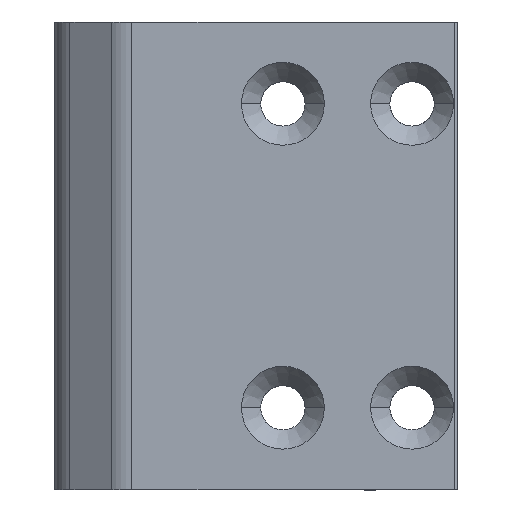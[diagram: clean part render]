
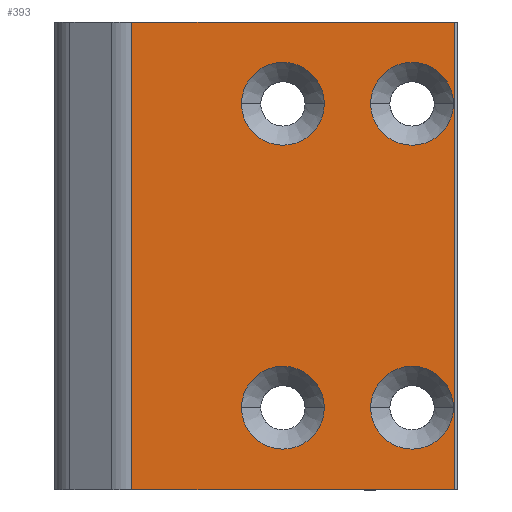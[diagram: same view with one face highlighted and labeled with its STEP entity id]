
A CAD part, top view. The second image highlights one B-rep face of the part: STEP entity #393.
In plain terms, the highlighted planar face has unit normal (0, 0, 1).
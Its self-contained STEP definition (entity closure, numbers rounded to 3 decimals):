
#2 = ORIENTED_EDGE ( 'NONE', *, *, #1031, .F. ) ;
#20 = ORIENTED_EDGE ( 'NONE', *, *, #832, .F. ) ;
#57 = CARTESIAN_POINT ( 'NONE',  ( 5.792, 0., 26. ) ) ;
#85 = VECTOR ( 'NONE', #935, 1000. ) ;
#111 = DIRECTION ( 'NONE',  ( 0., 0., 1. ) ) ;
#138 = VERTEX_POINT ( 'NONE', #1418 ) ;
#178 = EDGE_CURVE ( 'NONE', #1087, #396, #892, .T. ) ;
#182 = CIRCLE ( 'NONE', #1581, 3.543 ) ;
#207 = CARTESIAN_POINT ( 'NONE',  ( -21.832, 40., 26. ) ) ;
#224 = AXIS2_PLACEMENT_3D ( 'NONE', #258, #2208, #1309 ) ;
#258 = CARTESIAN_POINT ( 'NONE',  ( -8.908, 33., 26. ) ) ;
#276 = ORIENTED_EDGE ( 'NONE', *, *, #675, .F. ) ;
#290 = EDGE_CURVE ( 'NONE', #1087, #1695, #1474, .T. ) ;
#292 = CARTESIAN_POINT ( 'NONE',  ( 0., 40., 26. ) ) ;
#311 = CIRCLE ( 'NONE', #419, 3.543 ) ;
#372 = CIRCLE ( 'NONE', #906, 3.543 ) ;
#384 = CARTESIAN_POINT ( 'NONE',  ( -8.908, 33., 26. ) ) ;
#393 = ADVANCED_FACE ( 'NONE', ( #2067, #1013, #1696, #482, #1900 ), #1718, .F. ) ;
#396 = VERTEX_POINT ( 'NONE', #444 ) ;
#414 = EDGE_LOOP ( 'NONE', ( #2249, #1151 ) ) ;
#419 = AXIS2_PLACEMENT_3D ( 'NONE', #2136, #1061, #2330 ) ;
#444 = CARTESIAN_POINT ( 'NONE',  ( -21.832, 0., 26. ) ) ;
#468 = EDGE_CURVE ( 'NONE', #2173, #2309, #1423, .T. ) ;
#473 = VERTEX_POINT ( 'NONE', #1380 ) ;
#482 = FACE_BOUND ( 'NONE', #414, .T. ) ;
#497 = CARTESIAN_POINT ( 'NONE',  ( -21.832, 0., 26. ) ) ;
#568 = ORIENTED_EDGE ( 'NONE', *, *, #178, .T. ) ;
#577 = DIRECTION ( 'NONE',  ( 0., 0., 1. ) ) ;
#590 = ORIENTED_EDGE ( 'NONE', *, *, #2144, .F. ) ;
#594 = EDGE_CURVE ( 'NONE', #396, #1300, #888, .T. ) ;
#597 = AXIS2_PLACEMENT_3D ( 'NONE', #1766, #1946, #1415 ) ;
#600 = CARTESIAN_POINT ( 'NONE',  ( -12.451, 33., 26. ) ) ;
#613 = DIRECTION ( 'NONE',  ( 1., 0., 0. ) ) ;
#648 = DIRECTION ( 'NONE',  ( 0., 0., 1. ) ) ;
#662 = DIRECTION ( 'NONE',  ( 1., 0., 0. ) ) ;
#675 = EDGE_CURVE ( 'NONE', #1976, #1067, #778, .T. ) ;
#705 = CIRCLE ( 'NONE', #224, 3.543 ) ;
#741 = ORIENTED_EDGE ( 'NONE', *, *, #290, .F. ) ;
#743 = CIRCLE ( 'NONE', #2135, 3.543 ) ;
#748 = EDGE_CURVE ( 'NONE', #138, #473, #372, .T. ) ;
#778 = CIRCLE ( 'NONE', #2101, 3.543 ) ;
#788 = DIRECTION ( 'NONE',  ( 0., 0., 1. ) ) ;
#814 = EDGE_CURVE ( 'NONE', #1300, #1695, #1729, .T. ) ;
#832 = EDGE_CURVE ( 'NONE', #1957, #1036, #182, .T. ) ;
#851 = EDGE_LOOP ( 'NONE', ( #2, #20 ) ) ;
#888 = LINE ( 'NONE', #1777, #1155 ) ;
#892 = LINE ( 'NONE', #497, #2164 ) ;
#906 = AXIS2_PLACEMENT_3D ( 'NONE', #1811, #788, #662 ) ;
#919 = CARTESIAN_POINT ( 'NONE',  ( 5.686, 33., 26. ) ) ;
#935 = DIRECTION ( 'NONE',  ( 1., 0., 0. ) ) ;
#976 = VECTOR ( 'NONE', #2051, 1000. ) ;
#1013 = FACE_BOUND ( 'NONE', #1078, .T. ) ;
#1031 = EDGE_CURVE ( 'NONE', #1036, #1957, #311, .T. ) ;
#1036 = VERTEX_POINT ( 'NONE', #919 ) ;
#1061 = DIRECTION ( 'NONE',  ( 0., 0., 1. ) ) ;
#1067 = VERTEX_POINT ( 'NONE', #1481 ) ;
#1078 = EDGE_LOOP ( 'NONE', ( #590, #2095 ) ) ;
#1087 = VERTEX_POINT ( 'NONE', #207 ) ;
#1147 = CARTESIAN_POINT ( 'NONE',  ( -1.401, 33., 26. ) ) ;
#1151 = ORIENTED_EDGE ( 'NONE', *, *, #1721, .F. ) ;
#1155 = VECTOR ( 'NONE', #1579, 1000. ) ;
#1193 = CARTESIAN_POINT ( 'NONE',  ( 2.142, 7., 26. ) ) ;
#1228 = AXIS2_PLACEMENT_3D ( 'NONE', #292, #2229, #1732 ) ;
#1264 = CARTESIAN_POINT ( 'NONE',  ( 5.686, 7., 26. ) ) ;
#1300 = VERTEX_POINT ( 'NONE', #57 ) ;
#1308 = CARTESIAN_POINT ( 'NONE',  ( 0., 40., 26. ) ) ;
#1309 = DIRECTION ( 'NONE',  ( 1., 0., 0. ) ) ;
#1380 = CARTESIAN_POINT ( 'NONE',  ( -12.451, 7., 26. ) ) ;
#1415 = DIRECTION ( 'NONE',  ( 1., 0., 0. ) ) ;
#1418 = CARTESIAN_POINT ( 'NONE',  ( -5.364, 7., 26. ) ) ;
#1423 = CIRCLE ( 'NONE', #2064, 3.543 ) ;
#1449 = ORIENTED_EDGE ( 'NONE', *, *, #1965, .F. ) ;
#1474 = LINE ( 'NONE', #1308, #85 ) ;
#1481 = CARTESIAN_POINT ( 'NONE',  ( -5.364, 33., 26. ) ) ;
#1504 = CARTESIAN_POINT ( 'NONE',  ( 5.792, 40., 26. ) ) ;
#1574 = EDGE_LOOP ( 'NONE', ( #1667, #2242, #741, #568 ) ) ;
#1579 = DIRECTION ( 'NONE',  ( 1., 0., 0. ) ) ;
#1581 = AXIS2_PLACEMENT_3D ( 'NONE', #2227, #648, #1873 ) ;
#1667 = ORIENTED_EDGE ( 'NONE', *, *, #594, .T. ) ;
#1695 = VERTEX_POINT ( 'NONE', #2294 ) ;
#1696 = FACE_BOUND ( 'NONE', #1809, .T. ) ;
#1718 = PLANE ( 'NONE',  #1228 ) ;
#1721 = EDGE_CURVE ( 'NONE', #473, #138, #743, .T. ) ;
#1729 = LINE ( 'NONE', #1504, #976 ) ;
#1732 = DIRECTION ( 'NONE',  ( -1., 0., 0. ) ) ;
#1744 = CARTESIAN_POINT ( 'NONE',  ( -1.401, 7., 26. ) ) ;
#1759 = DIRECTION ( 'NONE',  ( 1., 0., 0. ) ) ;
#1766 = CARTESIAN_POINT ( 'NONE',  ( 2.142, 7., 26. ) ) ;
#1777 = CARTESIAN_POINT ( 'NONE',  ( 0., 0., 26. ) ) ;
#1809 = EDGE_LOOP ( 'NONE', ( #1449, #276 ) ) ;
#1811 = CARTESIAN_POINT ( 'NONE',  ( -8.908, 7., 26. ) ) ;
#1825 = DIRECTION ( 'NONE',  ( 1., 0., 0. ) ) ;
#1846 = CIRCLE ( 'NONE', #597, 3.543 ) ;
#1873 = DIRECTION ( 'NONE',  ( 1., 0., 0. ) ) ;
#1900 = FACE_OUTER_BOUND ( 'NONE', #1574, .T. ) ;
#1946 = DIRECTION ( 'NONE',  ( 0., 0., 1. ) ) ;
#1950 = DIRECTION ( 'NONE',  ( 0., 0., 1. ) ) ;
#1957 = VERTEX_POINT ( 'NONE', #1147 ) ;
#1965 = EDGE_CURVE ( 'NONE', #1067, #1976, #705, .T. ) ;
#1976 = VERTEX_POINT ( 'NONE', #600 ) ;
#2051 = DIRECTION ( 'NONE',  ( 0., 1., 0. ) ) ;
#2064 = AXIS2_PLACEMENT_3D ( 'NONE', #1193, #111, #613 ) ;
#2067 = FACE_BOUND ( 'NONE', #851, .T. ) ;
#2095 = ORIENTED_EDGE ( 'NONE', *, *, #468, .F. ) ;
#2101 = AXIS2_PLACEMENT_3D ( 'NONE', #384, #577, #1825 ) ;
#2135 = AXIS2_PLACEMENT_3D ( 'NONE', #2316, #1950, #1759 ) ;
#2136 = CARTESIAN_POINT ( 'NONE',  ( 2.142, 33., 26. ) ) ;
#2144 = EDGE_CURVE ( 'NONE', #2309, #2173, #1846, .T. ) ;
#2164 = VECTOR ( 'NONE', #2304, 1000. ) ;
#2173 = VERTEX_POINT ( 'NONE', #1744 ) ;
#2208 = DIRECTION ( 'NONE',  ( 0., 0., 1. ) ) ;
#2227 = CARTESIAN_POINT ( 'NONE',  ( 2.142, 33., 26. ) ) ;
#2229 = DIRECTION ( 'NONE',  ( 0., 0., -1. ) ) ;
#2242 = ORIENTED_EDGE ( 'NONE', *, *, #814, .T. ) ;
#2249 = ORIENTED_EDGE ( 'NONE', *, *, #748, .F. ) ;
#2294 = CARTESIAN_POINT ( 'NONE',  ( 5.792, 40., 26. ) ) ;
#2304 = DIRECTION ( 'NONE',  ( 0., -1., 0. ) ) ;
#2309 = VERTEX_POINT ( 'NONE', #1264 ) ;
#2316 = CARTESIAN_POINT ( 'NONE',  ( -8.908, 7., 26. ) ) ;
#2330 = DIRECTION ( 'NONE',  ( 1., 0., 0. ) ) ;
